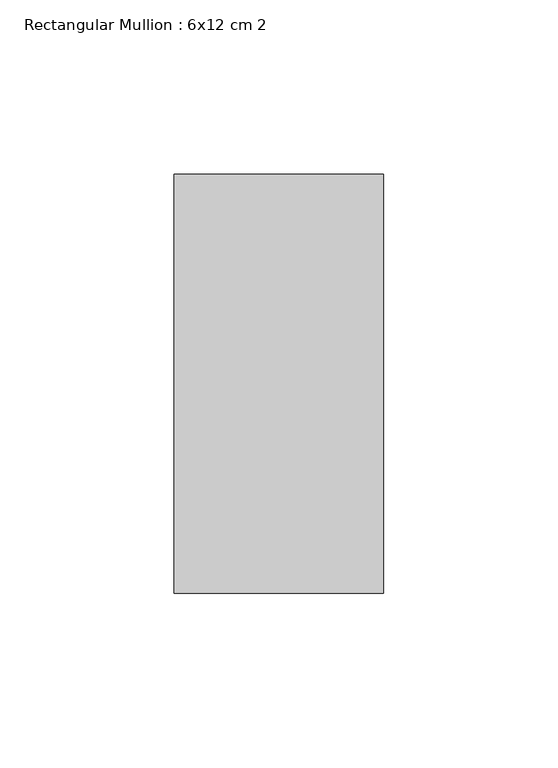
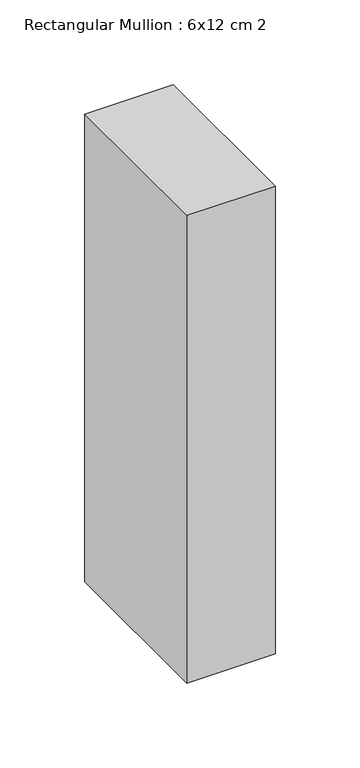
"""IFC4 building model written with IfcOpenShell, lengths in millimetres: member geometry, Rectangular Mullion : 6x12 cm 2."""

from ifc_helpers import new_model, si_unit, frame, origin, place, context, project, spatial, polyline, outline, extrude, source, transform, mapped, element, save


def rectangular_mullion_6x12_cm_2_108bcaec(model_context):
    return source(origin(), model_context, "Body", "SweptSolid", [
        extrude(outline(polyline([(0.0, 205.0), (0.0, 85.0), (-60.0, 85.0), (-60.0, 205.0), (0.0, 205.0)])), frame((0.0, 0.0, -336.3195938), z_axis=(0.0, 0.0, 1.0), x_axis=(1.0, 0.0, 0.0)), (0.0, 0.0, 1.0), 336.3195938),
    ])


if __name__ == "__main__":
    model = new_model("IFC4")
    model_context = context("Model", 3, world=origin())
    ifc_project = project(units=[si_unit("LENGTHUNIT", "METRE", prefix="MILLI")], contexts=[model_context])
    site = spatial("IfcSite", under=ifc_project)
    building = spatial("IfcBuilding", under=site)
    placement = place(None, origin())
    rectangular_mullion_6x12_cm_2_shape = rectangular_mullion_6x12_cm_2_108bcaec(model_context)
    element("IfcMember", 1, ObjectType="Rectangular Mullion : 6x12 cm 2", at=placement, inside=building, context=model_context, shape_type="MappedRepresentation", body=[
        mapped(rectangular_mullion_6x12_cm_2_shape, transform((0.0, 0.0, 0.0), x_axis=(1.0, 0.0, 0.0), y_axis=(0.0, 1.0, 0.0), z_axis=(0.0, 0.0, 1.0))),
    ])
    save(model, "model.ifc")
